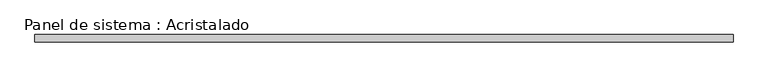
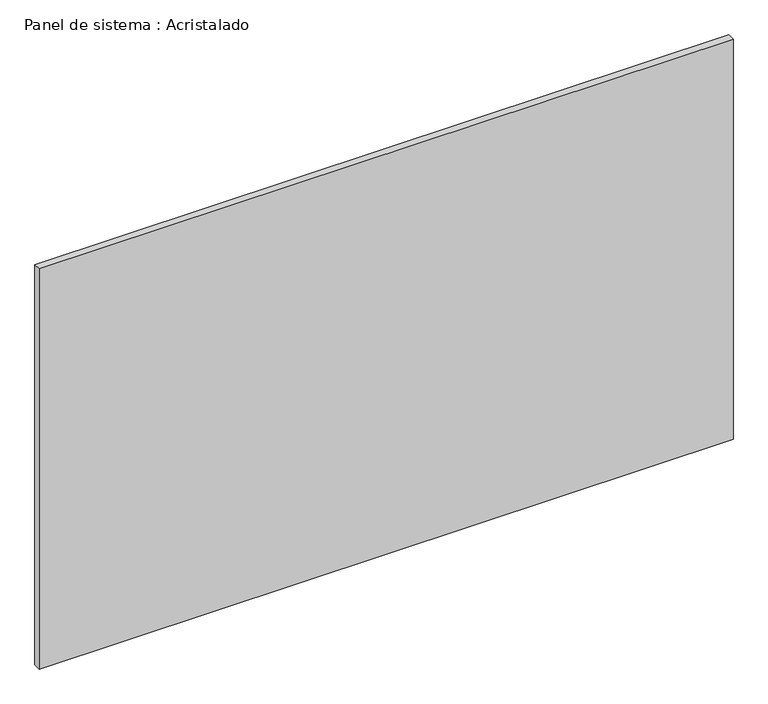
"""IFC4 building model written with IfcOpenShell, lengths in millimetres: plate geometry, Panel de sistema : Acristalado."""

from ifc_helpers import new_model, si_unit, origin, origin_with_axes, place, context, project, spatial, polyline, outline, extrude, source, transform, mapped, element, save


def panel_de_sistema_acristalado_6bbe18f3(model_context):
    return source(origin(), model_context, "Body", "SweptSolid", [
        extrude(outline(polyline([(947.4422523, -10.0), (-947.4422523, -10.0), (-947.4422523, 10.0), (947.4422523, 10.0), (947.4422523, -10.0)])), origin_with_axes(), (0.0, 0.0, 1.0), 1155.0),
    ])


if __name__ == "__main__":
    model = new_model("IFC4")
    model_context = context("Model", 3, world=origin())
    ifc_project = project(units=[si_unit("LENGTHUNIT", "METRE", prefix="MILLI")], contexts=[model_context])
    site = spatial("IfcSite", under=ifc_project)
    building = spatial("IfcBuilding", under=site)
    placement = place(None, origin())
    panel_de_sistema_acristalado_shape = panel_de_sistema_acristalado_6bbe18f3(model_context)
    element("IfcPlate", 1, ObjectType="Panel de sistema : Acristalado", at=placement, inside=building, context=model_context, shape_type="MappedRepresentation", body=[
        mapped(panel_de_sistema_acristalado_shape, transform((0.0, 0.0, 0.0), x_axis=(1.0, 0.0, 0.0), y_axis=(0.0, 1.0, 0.0), z_axis=(0.0, 0.0, 1.0))),
    ])
    save(model, "model.ifc")
